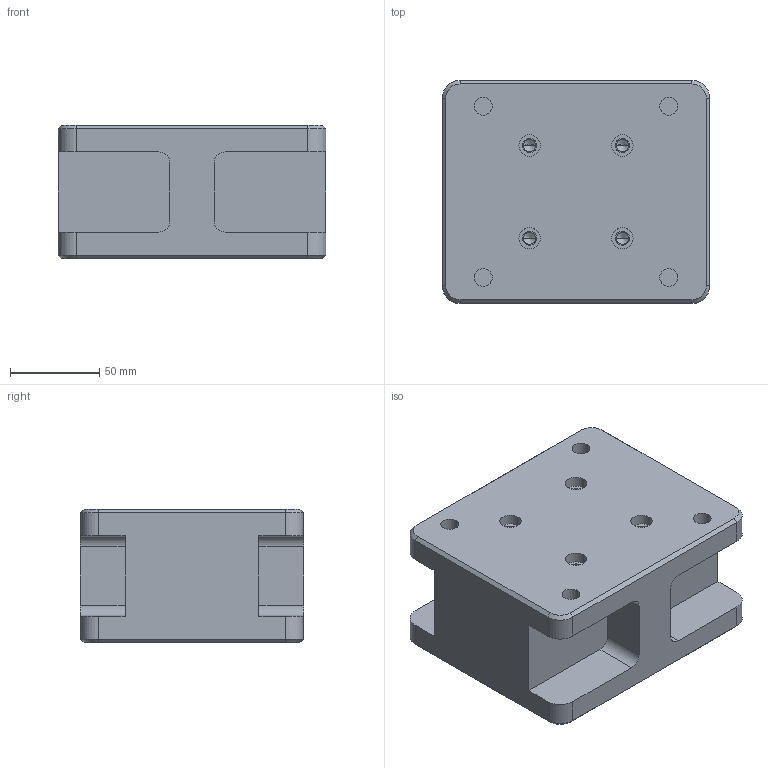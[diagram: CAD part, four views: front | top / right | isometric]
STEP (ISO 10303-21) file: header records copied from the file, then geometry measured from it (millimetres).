
FILE_DESCRIPTION((''),'2;1');
FILE_NAME('FG_VC_ACCES_SC014NP001','2026-03-05T17:39:43',('Admin'),(''),'CREO PARAMETRIC BY PTC INC, 2025010','CREO PARAMETRIC BY PTC INC, 2025010','');
FILE_SCHEMA(('CONFIG_CONTROL_DESIGN'));
Length unit declared in the file: millimetre
Products named in the file (1): FG_VC_ACCES_SC014NP001
Bounding box: 150 x 125 x 75 mm (x, y, z)
Volume: 1104390 mm3; surface area: 99028.9 mm2
Topology: 1 solids, 10 shells, 146 faces, 368 edges, 231 vertices
Faces by surface type: cylinder 74, plane 46, cone 26
Entity records: 4348 total; most frequent: DIRECTION 818, CARTESIAN_POINT 728, ORIENTED_EDGE 664, EDGE_CURVE 350, AXIS2_PLACEMENT_3D 321, VERTEX_POINT 231, EDGE_LOOP 179, VECTOR 176
